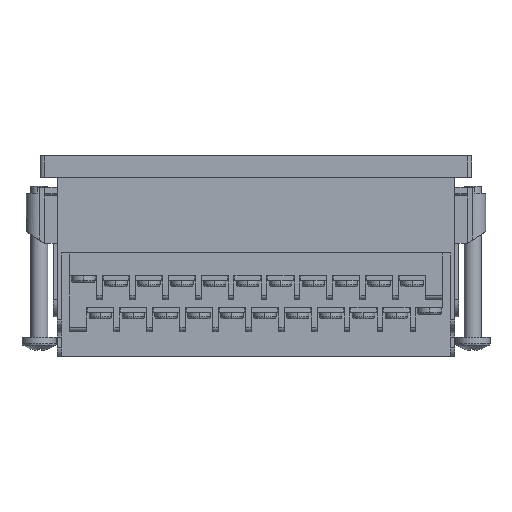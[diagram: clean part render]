
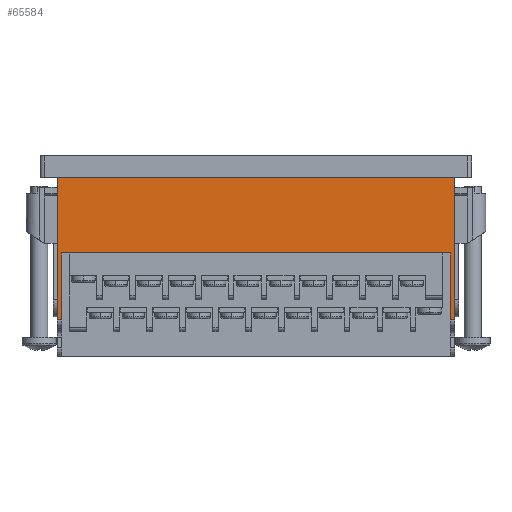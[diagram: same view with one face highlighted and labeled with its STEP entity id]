
A CAD part, front view. The second image highlights one B-rep face of the part: STEP entity #65584.
In plain terms, the highlighted planar face has unit normal (0, -1, 0).
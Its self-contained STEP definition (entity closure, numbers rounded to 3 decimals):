
#470 = CARTESIAN_POINT ( 'NONE',  ( -46., -46., -46.5 ) ) ;
#784 = VERTEX_POINT ( 'NONE', #52418 ) ;
#3665 = CARTESIAN_POINT ( 'NONE',  ( 46., -46., -46.5 ) ) ;
#5661 = EDGE_LOOP ( 'NONE', ( #50403, #52044, #21854, #55410, #48513, #34422, #25175, #58346 ) ) ;
#6770 = LINE ( 'NONE', #56919, #32817 ) ;
#6911 = VECTOR ( 'NONE', #43057, 1000. ) ;
#8747 = LINE ( 'NONE', #36113, #34725 ) ;
#9238 = PLANE ( 'NONE',  #44095 ) ;
#9789 = VERTEX_POINT ( 'NONE', #56946 ) ;
#10765 = LINE ( 'NONE', #470, #24609 ) ;
#10947 = DIRECTION ( 'NONE',  ( 0., 0., 1. ) ) ;
#11617 = LINE ( 'NONE', #61971, #39255 ) ;
#13995 = LINE ( 'NONE', #21387, #40006 ) ;
#14485 = DIRECTION ( 'NONE',  ( 0., 1., 0. ) ) ;
#16634 = DIRECTION ( 'NONE',  ( -1., 0., 0. ) ) ;
#17160 = CARTESIAN_POINT ( 'NONE',  ( 46., -46., -38. ) ) ;
#17759 = VERTEX_POINT ( 'NONE', #39856 ) ;
#18644 = CARTESIAN_POINT ( 'NONE',  ( 46., -46., -38. ) ) ;
#21387 = CARTESIAN_POINT ( 'NONE',  ( 46., -46., -22.5 ) ) ;
#21424 = VERTEX_POINT ( 'NONE', #22598 ) ;
#21854 = ORIENTED_EDGE ( 'NONE', *, *, #52308, .T. ) ;
#22598 = CARTESIAN_POINT ( 'NONE',  ( 46., -46., -3. ) ) ;
#24091 = EDGE_CURVE ( 'NONE', #784, #21424, #6770, .T. ) ;
#24609 = VECTOR ( 'NONE', #10947, 1000. ) ;
#25175 = ORIENTED_EDGE ( 'NONE', *, *, #65066, .F. ) ;
#26578 = VERTEX_POINT ( 'NONE', #34172 ) ;
#27264 = EDGE_CURVE ( 'NONE', #45034, #17759, #11617, .T. ) ;
#27411 = EDGE_CURVE ( 'NONE', #26578, #784, #10765, .T. ) ;
#27859 = VECTOR ( 'NONE', #56121, 1000. ) ;
#29883 = CARTESIAN_POINT ( 'NONE',  ( 45., -46., -46.5 ) ) ;
#30533 = FACE_OUTER_BOUND ( 'NONE', #5661, .T. ) ;
#30703 = DIRECTION ( 'NONE',  ( -1., 0., 0. ) ) ;
#32817 = VECTOR ( 'NONE', #57371, 1000. ) ;
#33319 = VECTOR ( 'NONE', #34760, 1000. ) ;
#34172 = CARTESIAN_POINT ( 'NONE',  ( -46., -46., -38. ) ) ;
#34422 = ORIENTED_EDGE ( 'NONE', *, *, #43500, .F. ) ;
#34725 = VECTOR ( 'NONE', #41377, 1000. ) ;
#34760 = DIRECTION ( 'NONE',  ( 0., 0., 1. ) ) ;
#35590 = CARTESIAN_POINT ( 'NONE',  ( 45., -46., -22.5 ) ) ;
#36113 = CARTESIAN_POINT ( 'NONE',  ( -45., -46., -46.5 ) ) ;
#36215 = LINE ( 'NONE', #17160, #6911 ) ;
#37580 = EDGE_CURVE ( 'NONE', #17759, #42715, #57290, .T. ) ;
#39255 = VECTOR ( 'NONE', #30703, 1000. ) ;
#39856 = CARTESIAN_POINT ( 'NONE',  ( 45., -46., -38. ) ) ;
#40006 = VECTOR ( 'NONE', #16634, 1000. ) ;
#41377 = DIRECTION ( 'NONE',  ( 0., 0., -1. ) ) ;
#41671 = EDGE_CURVE ( 'NONE', #42715, #9789, #13995, .T. ) ;
#42715 = VERTEX_POINT ( 'NONE', #35590 ) ;
#43057 = DIRECTION ( 'NONE',  ( -1., 0., 0. ) ) ;
#43500 = EDGE_CURVE ( 'NONE', #64511, #26578, #36215, .T. ) ;
#44095 = AXIS2_PLACEMENT_3D ( 'NONE', #45657, #14485, #50885 ) ;
#45034 = VERTEX_POINT ( 'NONE', #18644 ) ;
#45657 = CARTESIAN_POINT ( 'NONE',  ( 46., -46., -46.5 ) ) ;
#48513 = ORIENTED_EDGE ( 'NONE', *, *, #27411, .F. ) ;
#50403 = ORIENTED_EDGE ( 'NONE', *, *, #37580, .F. ) ;
#50885 = DIRECTION ( 'NONE',  ( 0., 0., 1. ) ) ;
#52044 = ORIENTED_EDGE ( 'NONE', *, *, #27264, .F. ) ;
#52308 = EDGE_CURVE ( 'NONE', #45034, #21424, #61113, .T. ) ;
#52418 = CARTESIAN_POINT ( 'NONE',  ( -46., -46., -3. ) ) ;
#55410 = ORIENTED_EDGE ( 'NONE', *, *, #24091, .F. ) ;
#56121 = DIRECTION ( 'NONE',  ( 0., 0., 1. ) ) ;
#56919 = CARTESIAN_POINT ( 'NONE',  ( 48., -46., -3. ) ) ;
#56946 = CARTESIAN_POINT ( 'NONE',  ( -45., -46., -22.5 ) ) ;
#57290 = LINE ( 'NONE', #29883, #27859 ) ;
#57371 = DIRECTION ( 'NONE',  ( 1., 0., 0. ) ) ;
#58346 = ORIENTED_EDGE ( 'NONE', *, *, #41671, .F. ) ;
#61113 = LINE ( 'NONE', #3665, #33319 ) ;
#61971 = CARTESIAN_POINT ( 'NONE',  ( 46., -46., -38. ) ) ;
#62687 = CARTESIAN_POINT ( 'NONE',  ( -45., -46., -38. ) ) ;
#64511 = VERTEX_POINT ( 'NONE', #62687 ) ;
#65066 = EDGE_CURVE ( 'NONE', #9789, #64511, #8747, .T. ) ;
#65584 = ADVANCED_FACE ( 'NONE', ( #30533 ), #9238, .F. ) ;
